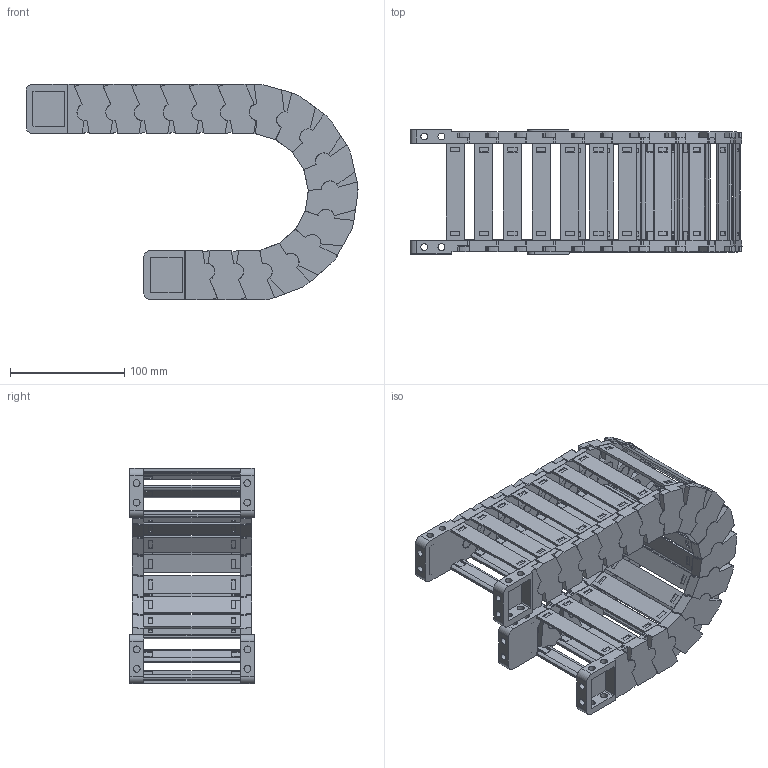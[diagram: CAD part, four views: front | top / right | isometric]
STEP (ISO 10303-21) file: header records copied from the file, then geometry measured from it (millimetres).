
FILE_DESCRIPTION((''),'2;1');
FILE_NAME('JY-35X77-R75_ASM','2025-07-23T15:24:37',('admin'),(''),'CREO PARAMETRIC BY PTC INC, 2021023','CREO PARAMETRIC BY PTC INC, 2021023','');
FILE_SCHEMA(('CONFIG_CONTROL_DESIGN','GEOMETRIC_VALIDATION_PROPERTIES_MIM'));
Length unit declared in the file: millimetre
Products named in the file (12): 35XL-L_1; 25-35XL-YP_1; 35XL-R_1; ASM0001_ASM_1_ASM; 35-LTT-A-L_1; 35-LTT-A-R_1; 35XL-LTT-A_ASM_1_ASM; 35-LTT-B-L_1; 35-LTT-B-R_1; 35XL-LTT-B_ASM_1_ASM; JY-35X77-R75_ASM_1_ASM; JY-35X77-R75_ASM
Assembly tree (31 placements, depth 4):
  JY-35X77-R75_ASM
    JY-35X77-R75_ASM_1_ASM
      ASM0001_ASM_1_ASM  x16
        35XL-L_1
        25-35XL-YP_1
        35XL-R_1
      35XL-LTT-A_ASM_1_ASM
        35-LTT-A-L_1
        25-35XL-YP_1  x2
        35-LTT-A-R_1
      35XL-LTT-B_ASM_1_ASM
        35-LTT-B-L_1
        25-35XL-YP_1  x2
        35-LTT-B-R_1
Bounding box: 290.74 x 109 x 188.76 mm (x, y, z)
Volume: 531338.3 mm3; surface area: 328997.2 mm2
Topology: 72 solids, 72 shells, 2812 faces, 8438 edges, 5740 vertices
Faces by surface type: plane 1908, cylinder 902, bspline 2
Entity records: 16587 total; most frequent: CARTESIAN_POINT 2727, DIRECTION 2492, ORIENTED_EDGE 2416, EDGE_CURVE 1208, AXIS2_PLACEMENT_3D 831, VECTOR 830, LINE 830, VERTEX_POINT 820
